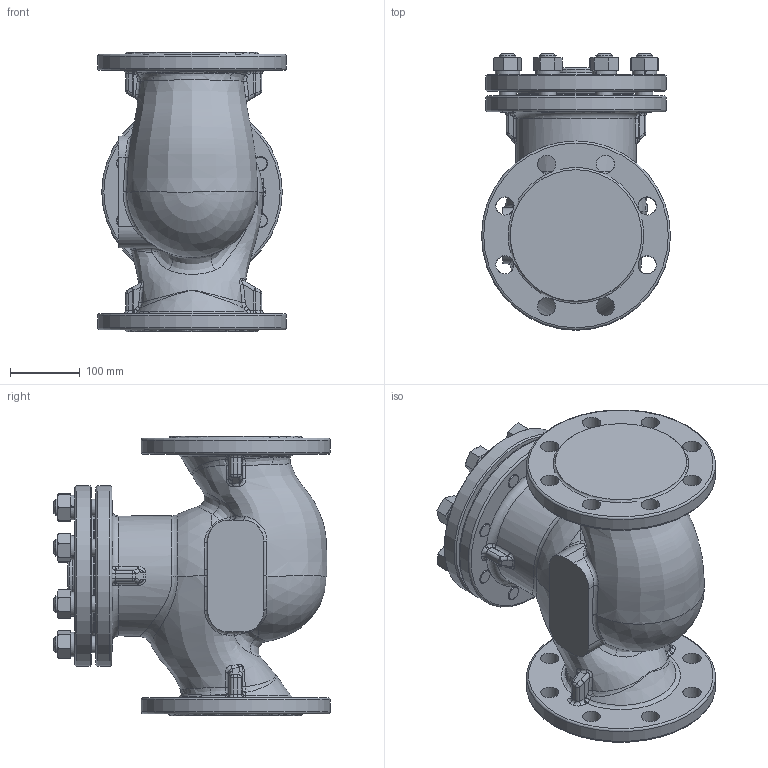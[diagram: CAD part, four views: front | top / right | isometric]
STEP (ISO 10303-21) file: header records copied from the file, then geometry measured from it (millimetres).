
FILE_DESCRIPTION(/* description */ (''),/* implementation_level */ '2;1');
FILE_NAME(/* name */ 'sestZV226_DN125.stp',/* time_stamp */ '2012-03-06T10:09:27+01:00',/* author */ (''),/* organization */ ('LDM'),/* preprocessor_version */ 'ST-DEVELOPER v11',/* originating_system */ 'SIEMENS PLM Software NX 7.0',/* authorisation */ '');
FILE_SCHEMA (('CONFIG_CONTROL_DESIGN'));
Length unit declared in the file: millimetre
Products named in the file (1): adam9E31edln
Bounding box: 270 x 395 x 400 mm (x, y, z)
Volume: 16755278.3 mm3; surface area: 710171.8 mm2
Topology: 1 solids, 1 shells, 632 faces, 1501 edges, 884 vertices
Faces by surface type: plane 161, cylinder 151, cone 120, bspline 112, torus 62, sphere 26
Full cylindrical faces by diameter (mm): 24 x24, 26 x16, 75 x1, 164 x1, 172 x1, 180 x1, 258 x2, 270 x2
Entity records: 38958 total; most frequent: CARTESIAN_POINT 25823, ORIENTED_EDGE 2734, DIRECTION 2576, EDGE_CURVE 1367, AXIS2_PLACEMENT_3D 1152, VERTEX_POINT 835, EDGE_LOOP 794, ADVANCED_FACE 632
